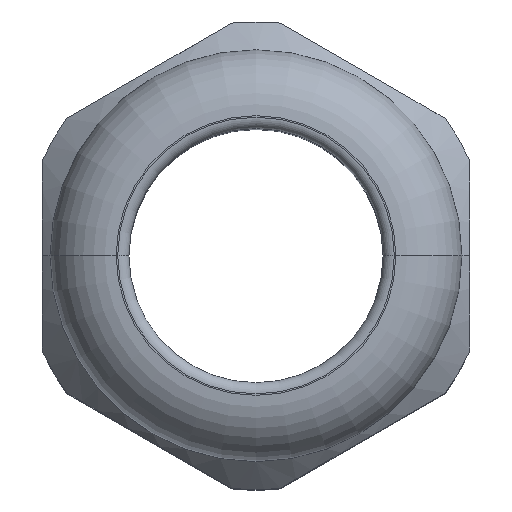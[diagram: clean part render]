
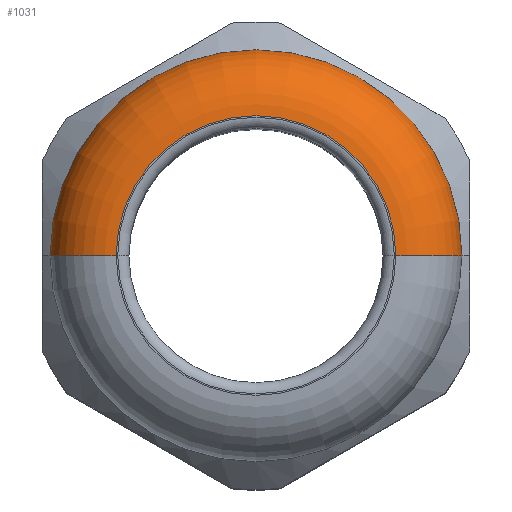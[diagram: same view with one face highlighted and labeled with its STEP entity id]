
A CAD part, top view. The second image highlights one B-rep face of the part: STEP entity #1031.
In plain terms, the highlighted toroidal (fillet/blend) face has major radius 13.75 mm and minor radius 6.5 mm.
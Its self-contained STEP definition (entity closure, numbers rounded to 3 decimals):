
#101 = DIRECTION ( 'NONE',  ( -1., 0., 0. ) ) ;
#147 = DIRECTION ( 'NONE',  ( 0., 0., -1. ) ) ;
#148 = CARTESIAN_POINT ( 'NONE',  ( 0., 0., 54. ) ) ;
#149 = AXIS2_PLACEMENT_3D ( 'NONE', #148, #147, #101 ) ;
#150 = TOROIDAL_SURFACE ( 'NONE', #149, 13.75, 6.5 ) ;
#151 = FACE_OUTER_BOUND ( 'NONE', #1032, .T. ) ;
#936 = EDGE_CURVE ( 'NONE', #937, #938, #2331, .T. ) ;
#937 = VERTEX_POINT ( 'NONE', #2271 ) ;
#938 = VERTEX_POINT ( 'NONE', #2270 ) ;
#939 = ORIENTED_EDGE ( 'NONE', *, *, #940, .T. ) ;
#940 = EDGE_CURVE ( 'NONE', #938, #941, #2269, .T. ) ;
#941 = VERTEX_POINT ( 'NONE', #2334 ) ;
#942 = ORIENTED_EDGE ( 'NONE', *, *, #943, .F. ) ;
#943 = EDGE_CURVE ( 'NONE', #944, #941, #2333, .T. ) ;
#944 = VERTEX_POINT ( 'NONE', #2408 ) ;
#945 = ORIENTED_EDGE ( 'NONE', *, *, #946, .F. ) ;
#946 = EDGE_CURVE ( 'NONE', #937, #944, #2407, .T. ) ;
#1031 = ADVANCED_FACE ( 'NONE', ( #151 ), #150, .T. ) ;
#1032 = EDGE_LOOP ( 'NONE', ( #1033, #939, #942, #945 ) ) ;
#1033 = ORIENTED_EDGE ( 'NONE', *, *, #936, .T. ) ;
#2269 = CIRCLE ( 'NONE', #2338, 6.5 ) ;
#2270 = CARTESIAN_POINT ( 'NONE',  ( 13.75, 0., 60.5 ) ) ;
#2271 = CARTESIAN_POINT ( 'NONE',  ( -13.75, 0., 60.5 ) ) ;
#2321 = DIRECTION ( 'NONE',  ( 0., 0., -1. ) ) ;
#2322 = DIRECTION ( 'NONE',  ( 0., -1., 0. ) ) ;
#2323 = CARTESIAN_POINT ( 'NONE',  ( -13.75, 0., 54. ) ) ;
#2327 = DIRECTION ( 'NONE',  ( -1., 0., 0. ) ) ;
#2328 = DIRECTION ( 'NONE',  ( 0., 0., -1. ) ) ;
#2329 = CARTESIAN_POINT ( 'NONE',  ( 0., 0., 60.5 ) ) ;
#2330 = AXIS2_PLACEMENT_3D ( 'NONE', #2329, #2328, #2327 ) ;
#2331 = CIRCLE ( 'NONE', #2330, 13.75 ) ;
#2333 = CIRCLE ( 'NONE', #2423, 20.25 ) ;
#2334 = CARTESIAN_POINT ( 'NONE',  ( 20.25, 0., 54. ) ) ;
#2335 = DIRECTION ( 'NONE',  ( -1., 0., 0. ) ) ;
#2336 = DIRECTION ( 'NONE',  ( 0., 1., 0. ) ) ;
#2337 = CARTESIAN_POINT ( 'NONE',  ( 13.75, 0., 54. ) ) ;
#2338 = AXIS2_PLACEMENT_3D ( 'NONE', #2337, #2336, #2335 ) ;
#2406 = AXIS2_PLACEMENT_3D ( 'NONE', #2323, #2322, #2321 ) ;
#2407 = CIRCLE ( 'NONE', #2406, 6.5 ) ;
#2408 = CARTESIAN_POINT ( 'NONE',  ( -20.25, 0., 54. ) ) ;
#2409 = DIRECTION ( 'NONE',  ( -1., 0., 0. ) ) ;
#2421 = DIRECTION ( 'NONE',  ( 0., 0., -1. ) ) ;
#2422 = CARTESIAN_POINT ( 'NONE',  ( 0., 0., 54. ) ) ;
#2423 = AXIS2_PLACEMENT_3D ( 'NONE', #2422, #2421, #2409 ) ;
